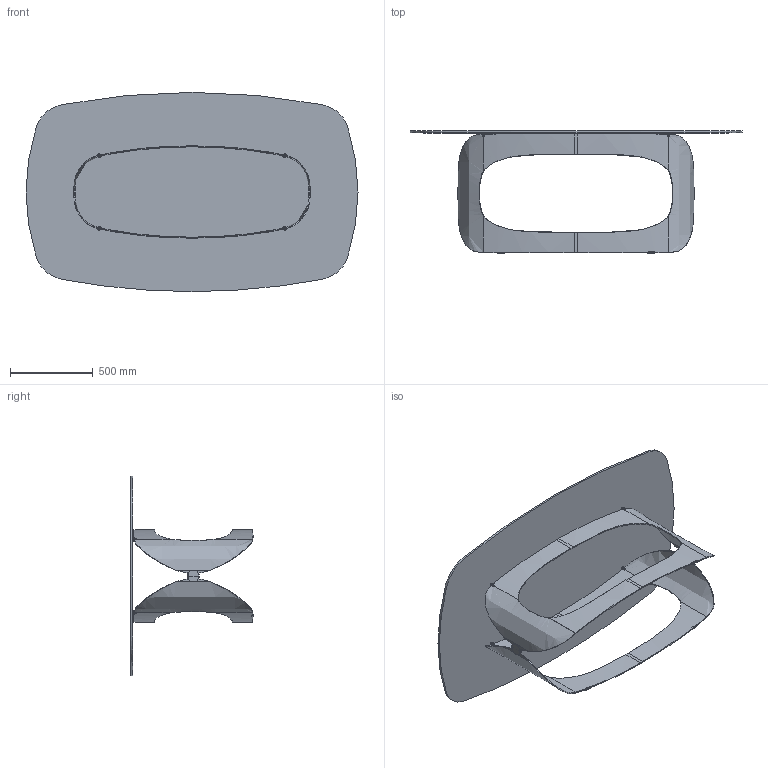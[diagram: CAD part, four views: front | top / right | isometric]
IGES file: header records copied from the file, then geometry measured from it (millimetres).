
Start section: SolidWorks IGES file using analytic representation for surfaces
Global section: file name: Y:\eforma\TECNICO\SOLIDWORKS\E-FORMA\1-TAVOLI\POLIFEMO\02 parts\PO41G.IGS; native system: SolidWorks 2022; preprocessor: SolidWorks 2022; author: eforma.tech; date: 240806.160527; units: millimetre
Bounding box: 2000 x 736.97 x 1200 mm (x, y, z)
Volume: 33231030.3 mm3; surface area: 6929379.7 mm2
Topology: 24 solids, 24 shells, 477 faces, 1183 edges, 760 vertices
Faces by surface type: revolution 246, plane 151, bspline 80
